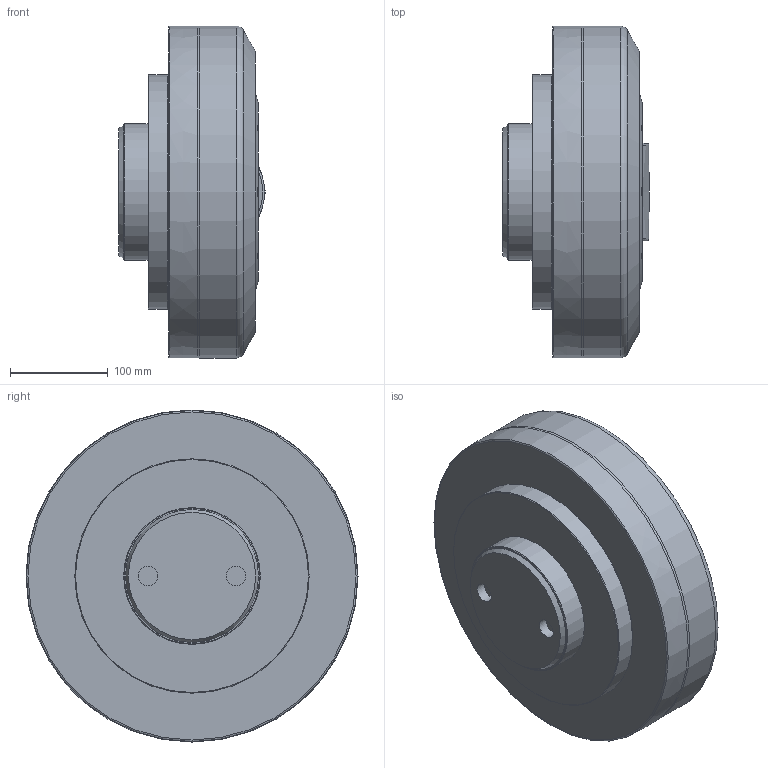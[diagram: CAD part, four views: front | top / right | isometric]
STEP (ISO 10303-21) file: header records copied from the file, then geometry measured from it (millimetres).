
FILE_DESCRIPTION(/* description */ (''),/* implementation_level */ '2;1');
FILE_NAME(/* name */ 'C:\Users\gabriele oddo\Desktop\400-0084.STEP',/* time_stamp */ '2023-07-27T12:09:56+02:00',/* author */ ('gabriele oddo'),/* organization */ (''),/* preprocessor_version */ 'ST-DEVELOPER v19',/* originating_system */ 'Autodesk Inventor 2023',/* authorisation */ '');
FILE_SCHEMA (('AUTOMOTIVE_DESIGN { 1 0 10303 214 3 1 1 }'));
Length unit declared in the file: millimetre
Products named in the file (1): 400-0084
Bounding box: 150 x 340 x 340 mm (x, y, z)
Volume: 9376494.7 mm3; surface area: 295062.7 mm2
Topology: 1 solids, 1 shells, 103 faces, 253 edges, 168 vertices
Faces by surface type: plane 75, cylinder 14, cone 7, torus 5, bspline 2
Full cylindrical faces by diameter (mm): 12 x8, 20 x2, 140 x1, 238 x1, 240 x1, 340 x1
Entity records: 3375 total; most frequent: CARTESIAN_POINT 750, DIRECTION 513, ORIENTED_EDGE 506, EDGE_CURVE 253, AXIS2_PLACEMENT_3D 173, VERTEX_POINT 168, LINE 167, VECTOR 167
